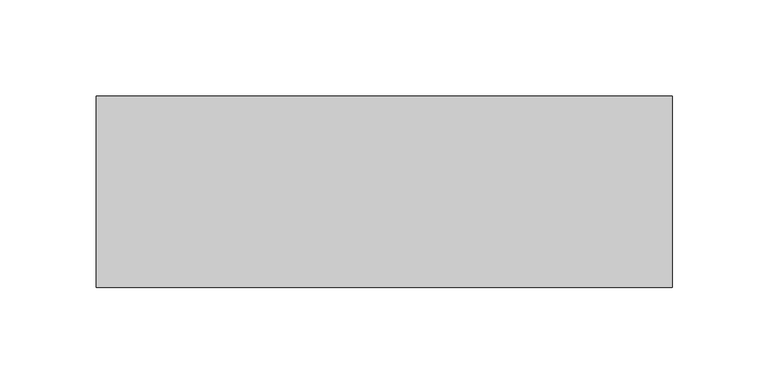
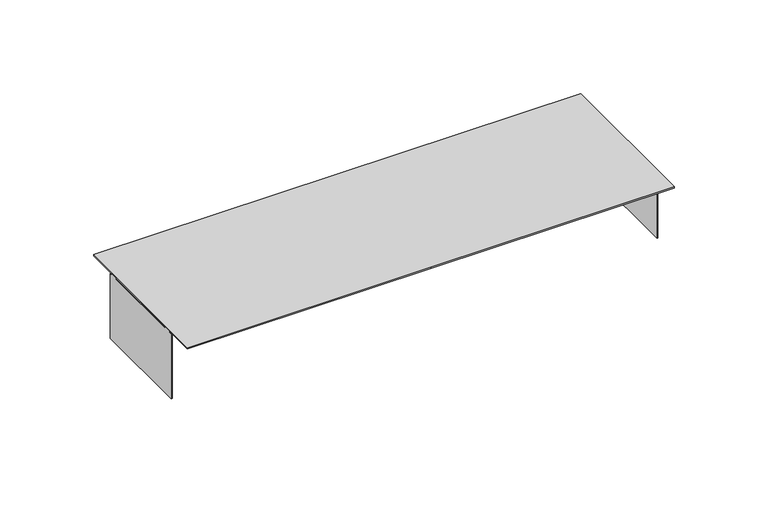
"""IFC4 building model written with IfcOpenShell, lengths in millimetres: proxy geometry, Cable_Tray_FinalCover_TFWT_Basorcanal : Basorcanal TFWT 300x100."""

from ifc_helpers import new_model, si_unit, frame, origin, origin_with_axes, place, context, project, spatial, polyline, outline, extrude, source, transform, mapped, element, save


def generic_models_34b2c739(model_context):
    return source(origin(), model_context, "Body", "SweptSolid", [
        extrude(outline(polyline([(-32.5, -43.2), (-32.5, -1.0), (-30.5, -1.0), (-30.5, 0.0), (-26.5, 0.0), (-26.5, -1.0), (26.5, -1.0), (26.5, 0.0), (30.5, 0.0), (30.5, -1.0), (32.5, -1.0), (32.5, -43.2), (-32.5, -43.2)])), frame((-150.0, 0.0, 0.0), z_axis=(1.0, 0.0, 0.0), x_axis=(0.0, 1.0, 0.0)), (0.0, 0.0, 1.0), 0.8),
        extrude(outline(polyline([(-32.5, -43.2), (-32.5, -1.0), (-30.5, -1.0), (-30.5, 0.0), (-26.5, 0.0), (-26.5, -1.0), (26.5, -1.0), (26.5, 0.0), (30.5, 0.0), (30.5, -1.0), (32.5, -1.0), (32.5, -43.2), (-32.5, -43.2)])), frame((149.2, 0.0, 0.0), z_axis=(1.0, 0.0, 0.0), x_axis=(0.0, 1.0, 0.0)), (0.0, 0.0, 1.0), 0.8),
        extrude(outline(polyline([(-150.0, 50.0), (0.0, 50.0), (150.0, 50.0), (150.0, -50.0), (0.0, -50.0), (-150.0, -50.0), (-150.0, 50.0)])), origin_with_axes(), (0.0, 0.0, 1.0), 0.8),
    ])


if __name__ == "__main__":
    model = new_model("IFC4")
    model_context = context("Model", 3, world=origin())
    ifc_project = project(units=[si_unit("LENGTHUNIT", "METRE", prefix="MILLI")], contexts=[model_context])
    site = spatial("IfcSite", under=ifc_project)
    building = spatial("IfcBuilding", under=site)
    placement = place(None, origin())
    generic_models_shape = generic_models_34b2c739(model_context)
    element("IfcBuildingElementProxy", 1, Name="Cable_Tray_FinalCover_TFWT_Basorcanal : Basorcanal TFWT 300x100", ObjectType="Cable_Tray_FinalCover_TFWT_Basorcanal : Basorcanal TFWT 300x100", at=placement, inside=building, context=model_context, shape_type="MappedRepresentation", body=[
        mapped(generic_models_shape, transform((0.0, 0.0, 0.0), x_axis=(1.0, 0.0, 0.0), y_axis=(0.0, 1.0, 0.0), z_axis=(0.0, 0.0, 1.0))),
    ])
    save(model, "model.ifc")
